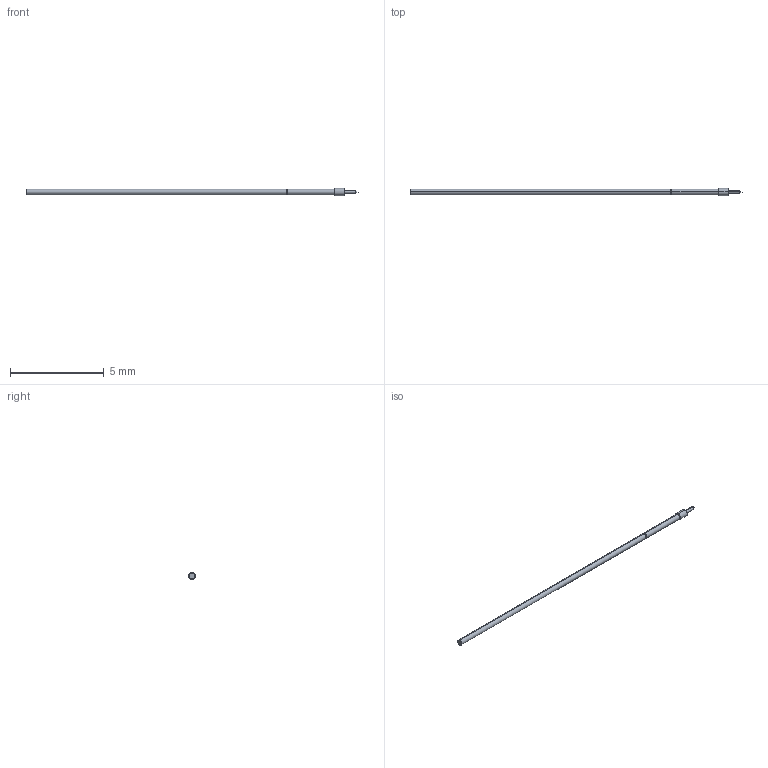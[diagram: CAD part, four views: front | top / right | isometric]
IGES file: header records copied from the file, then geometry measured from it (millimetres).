
Start section: SolidWorks IGES file using analytic representation for surfaces
Global section: file name: Z:\probe solid model mockups\Solidworks models\MEP-22B IGS files\MEP-22B RECD.IGS; native system: SolidWorks 2006 by SolidWorks Corporation; preprocessor: SolidWorks 2006 by SolidWorks Corporation; author: tsakatani; date: 071219.154510; units: inch
Bounding box: 17.73 x 0.38 x 0.38 mm (x, y, z)
Surface area: 17 mm2 (no closed solid volume)
Topology: 0 solids, 0 shells, 17 faces, 136 edges, 134 vertices
Faces by surface type: revolution 10, bspline 7
